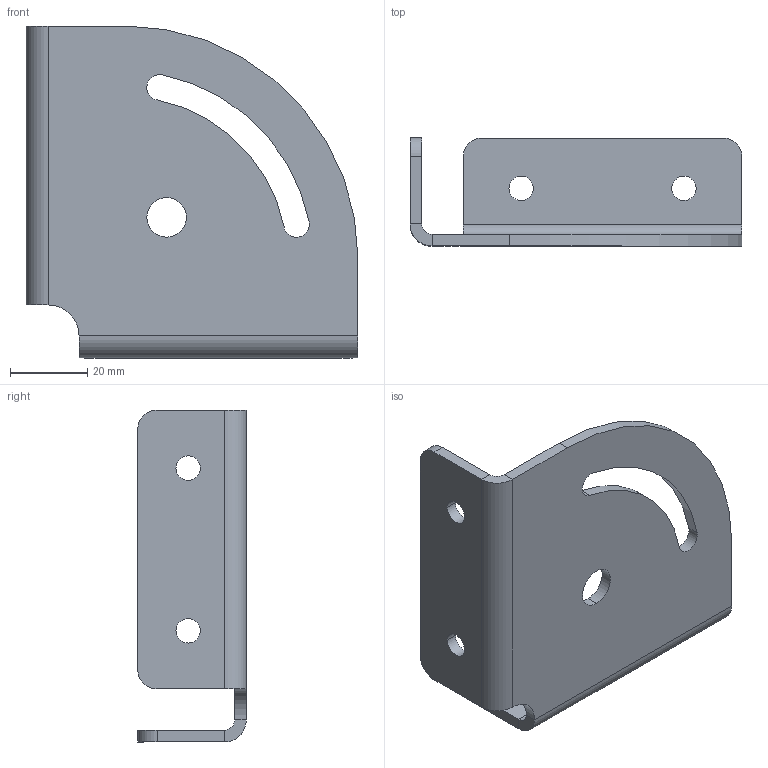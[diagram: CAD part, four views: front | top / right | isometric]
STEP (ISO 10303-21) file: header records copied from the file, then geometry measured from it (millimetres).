
FILE_DESCRIPTION (( 'STEP AP214' ), '1' );
FILE_NAME ('A30Ì10.STEP', '2015-10-16T09:55:31', ( '' ), ( '' ), 'SwSTEP 2.0', 'SolidWorks 2014', '' );
FILE_SCHEMA (( 'AUTOMOTIVE_DESIGN' ));
Length unit declared in the file: millimetre
Products named in the file (1): A30ﾌ10
Bounding box: 85.7 x 28 x 85.7 mm (x, y, z)
Volume: 27379.3 mm3; surface area: 20160.2 mm2
Topology: 1 solids, 1 shells, 43 faces, 107 edges, 66 vertices
Faces by surface type: cylinder 25, plane 18
Entity records: 1341 total; most frequent: DIRECTION 245, CARTESIAN_POINT 217, ORIENTED_EDGE 214, EDGE_CURVE 107, AXIS2_PLACEMENT_3D 94, VERTEX_POINT 66, LINE 57, VECTOR 57
